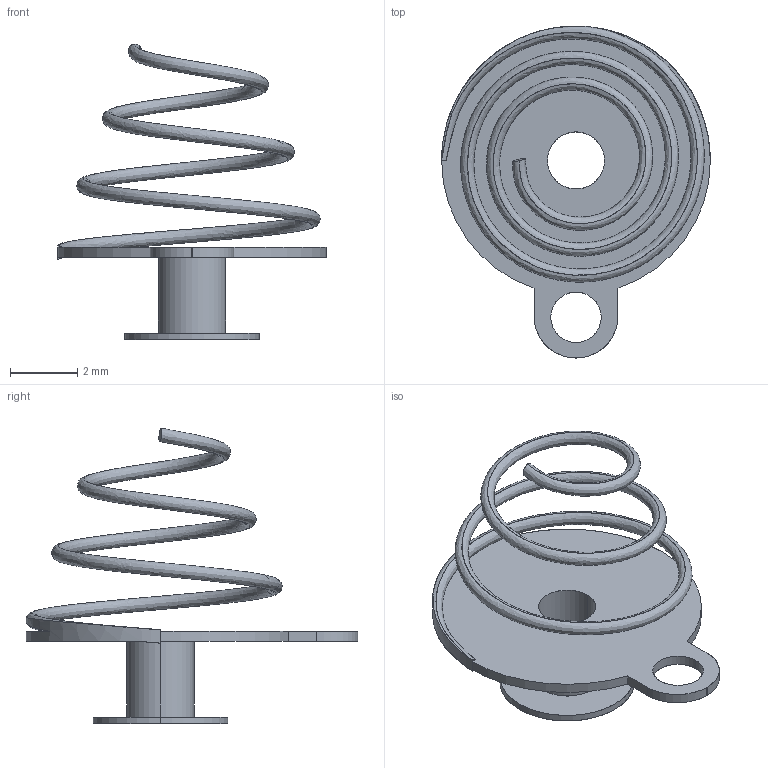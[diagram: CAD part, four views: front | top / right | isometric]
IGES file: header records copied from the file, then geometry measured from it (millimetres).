
Start section: SolidWorks IGES file using analytic representation for surfaces
Global section: file name: C:\Users\AndreBernot\Downloads\K-RACER-L_3D_SW\K-RACER-L_3D_SW\RESSORT PILE 3.IGS; native system: SolidWorks 2015; preprocessor: SolidWorks 2015; author: AndreBernot; date: 170922.151437; units: millimetre
Bounding box: 8 x 9.88 x 8.8 mm (x, y, z)
Surface area: 224.8 mm2 (no closed solid volume)
Topology: 0 solids, 0 shells, 26 faces, 479 edges, 479 vertices
Faces by surface type: revolution 13, bspline 13
